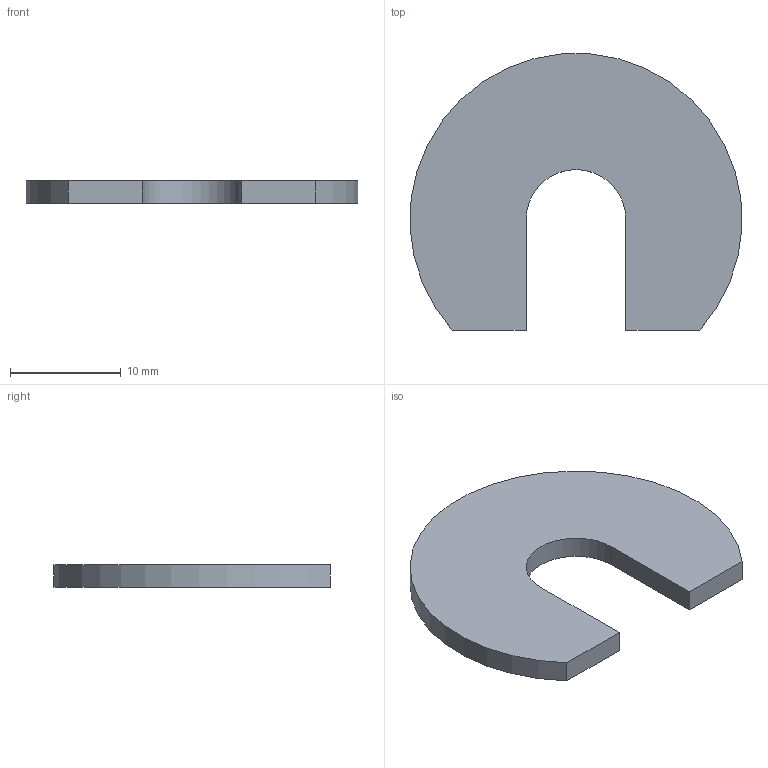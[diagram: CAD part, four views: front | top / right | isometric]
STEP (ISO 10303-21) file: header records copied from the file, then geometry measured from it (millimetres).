
FILE_DESCRIPTION(('CATIA V5 STEP Exchange'),'2;1');
FILE_NAME('\\mechanus\Mechanus\KONSTRUKCE-MONTAZ\PRODUKTY MECHANUS\MS006-SERIZOVACI PRVKY\ADMINISTRATIVA\podklady\simsy modely\MECHANUS šimsy\Mechanus--simsa--D30 tl.2 (30-200).stp','2024-03-13T12:27:01+00:00',('none'),('none'),'CATIA Version 5 Release 19 GA (IN-10)','CATIA V5 STEP AP203','none');
FILE_SCHEMA(('CONFIG_CONTROL_DESIGN'));
Length unit declared in the file: millimetre
Products named in the file (1): Mechanus--simsa--D30 tl.2 (30-200)
Bounding box: 29.97 x 24.95 x 2 mm (x, y, z)
Volume: 1015.2 mm3; surface area: 1248.3 mm2
Topology: 1 solids, 1 shells, 8 faces, 18 edges, 12 vertices
Faces by surface type: plane 6, cylinder 2
Entity records: 259 total; most frequent: CARTESIAN_POINT 38, ORIENTED_EDGE 36, DIRECTION 32, EDGE_CURVE 18, VECTOR 14, LINE 14, AXIS2_PLACEMENT_3D 12, VERTEX_POINT 12
